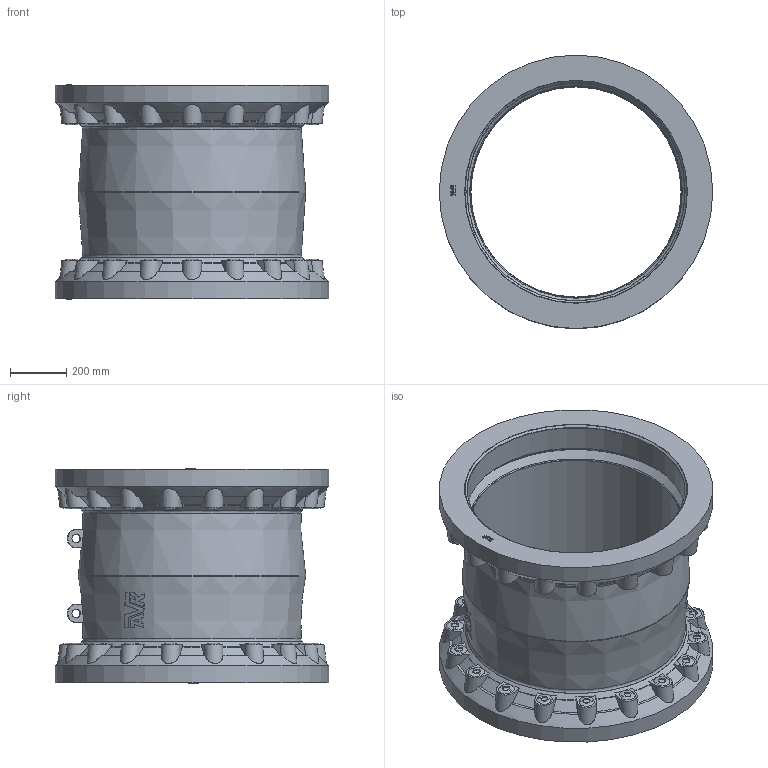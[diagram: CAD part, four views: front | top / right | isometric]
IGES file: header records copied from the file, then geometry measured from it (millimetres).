
Start section: SolidWorks IGES file using analytic representation for surfaces
Global section: file name: \\avksan2\techshare\PBM outline export from Enovia\O_631_00_DN700_X_REV01.igs; native system: SolidWorks 2019; preprocessor: SolidWorks 2019; author: pbm; date: 200925.080644; units: millimetre
Bounding box: 973 x 973 x 763.9 mm (x, y, z)
Surface area: 5050094 mm2 (no closed solid volume)
Topology: 0 solids, 2 shells, 770 faces, 3966 edges, 3930 vertices
Faces by surface type: bspline 422, revolution 348
